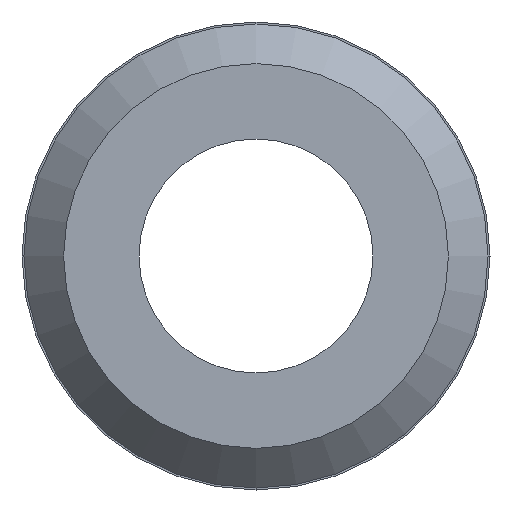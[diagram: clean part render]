
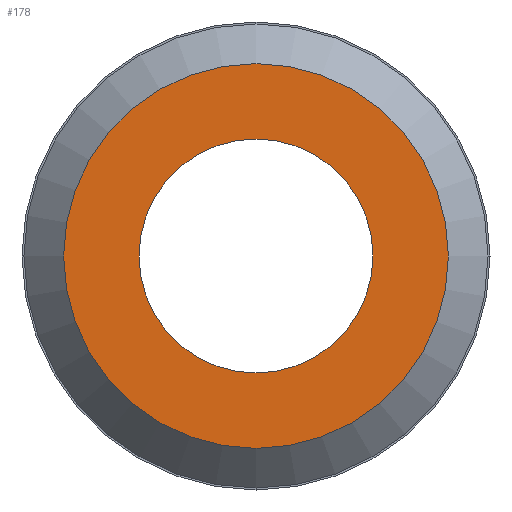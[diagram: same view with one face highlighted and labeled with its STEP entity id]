
A CAD part, front view. The second image highlights one B-rep face of the part: STEP entity #178.
In plain terms, the highlighted planar face has unit normal (0, -1, 0).
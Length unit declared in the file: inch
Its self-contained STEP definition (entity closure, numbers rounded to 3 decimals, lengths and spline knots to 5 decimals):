
#16=FACE_BOUND('',#44,.T.);
#20=PLANE('',#214);
#32=FACE_OUTER_BOUND('',#43,.T.);
#43=EDGE_LOOP('',(#148));
#44=EDGE_LOOP('',(#149,#150));
#70=CIRCLE('',#208,0.097);
#75=CIRCLE('',#215,0.059);
#76=CIRCLE('',#216,0.059);
#88=VERTEX_POINT('',#310);
#93=VERTEX_POINT('',#324);
#94=VERTEX_POINT('',#325);
#108=EDGE_CURVE('',#88,#88,#70,.T.);
#115=EDGE_CURVE('',#93,#94,#75,.T.);
#116=EDGE_CURVE('',#94,#93,#76,.T.);
#148=ORIENTED_EDGE('',*,*,#108,.F.);
#149=ORIENTED_EDGE('',*,*,#115,.F.);
#150=ORIENTED_EDGE('',*,*,#116,.F.);
#178=ADVANCED_FACE('',(#32,#16),#20,.T.);
#208=AXIS2_PLACEMENT_3D('',#311,#251,#252);
#214=AXIS2_PLACEMENT_3D('',#323,#265,#266);
#215=AXIS2_PLACEMENT_3D('',#326,#267,#268);
#216=AXIS2_PLACEMENT_3D('',#327,#269,#270);
#251=DIRECTION('center_axis',(0.,1.,0.));
#252=DIRECTION('ref_axis',(0.,0.,1.));
#265=DIRECTION('center_axis',(0.,-1.,0.));
#266=DIRECTION('ref_axis',(0.,0.,-1.));
#267=DIRECTION('center_axis',(0.,-1.,0.));
#268=DIRECTION('ref_axis',(1.,0.,0.));
#269=DIRECTION('center_axis',(0.,-1.,0.));
#270=DIRECTION('ref_axis',(1.,0.,0.));
#310=CARTESIAN_POINT('',(0.,0.,-0.097));
#311=CARTESIAN_POINT('Origin',(0.,0.,0.));
#323=CARTESIAN_POINT('Origin',(0.,0.,-0.059));
#324=CARTESIAN_POINT('',(0.,0.,-0.059));
#325=CARTESIAN_POINT('',(0.,0.,0.059));
#326=CARTESIAN_POINT('Origin',(0.,0.,0.));
#327=CARTESIAN_POINT('Origin',(0.,0.,0.));
